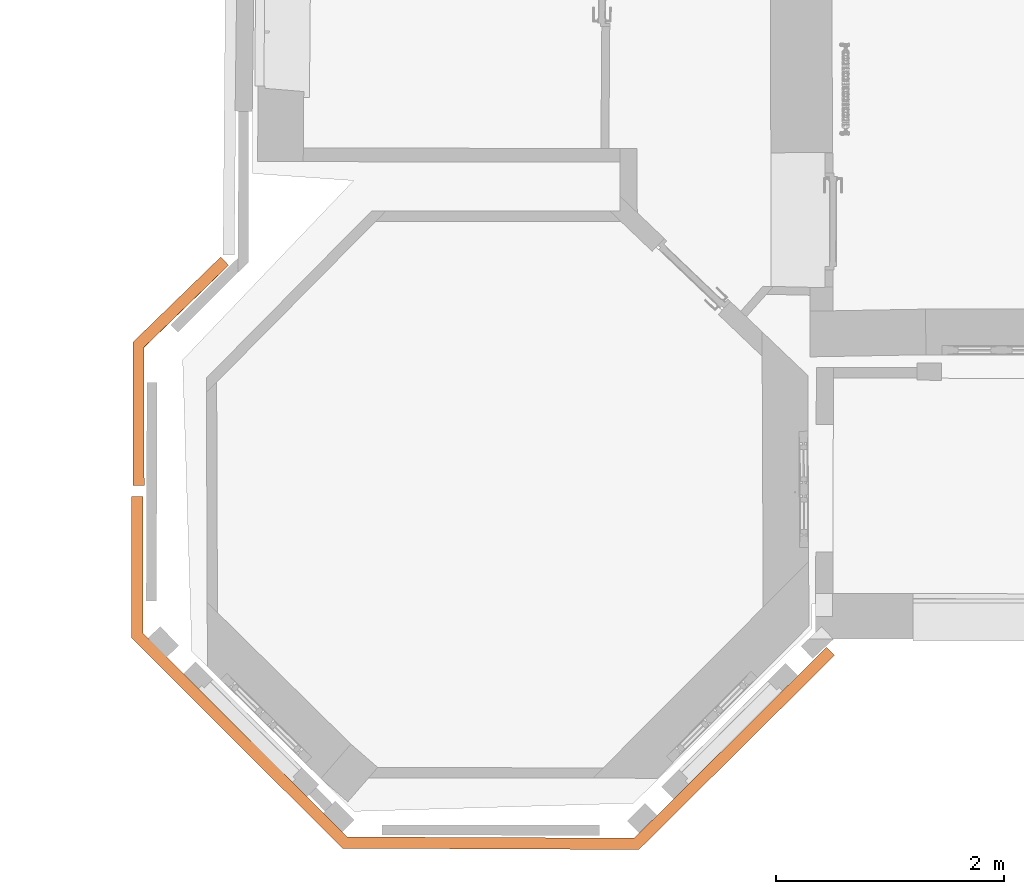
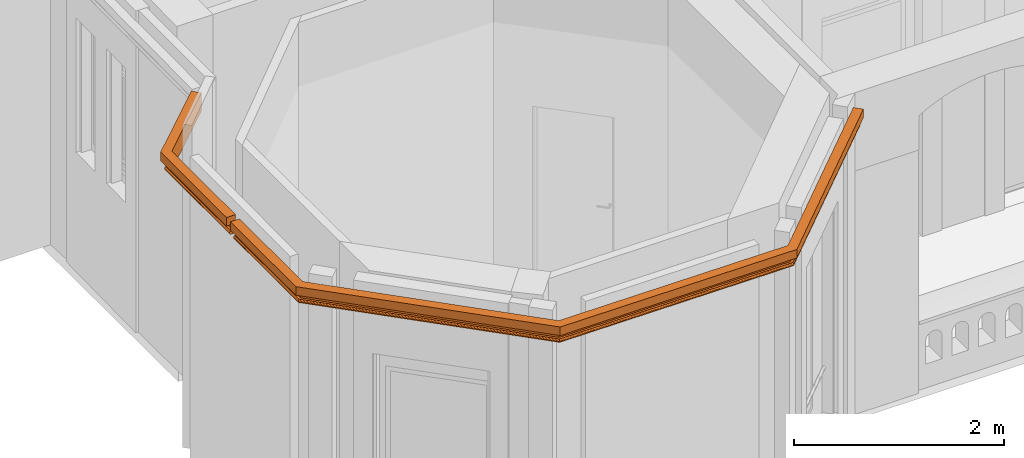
# One storey, part 62 of 66: 2 proxies.
"""IFC2X3 building model written with IfcOpenShell, lengths in centimetres."""

import ifcopenshell
import ifcopenshell.guid

model = None  # the IFC model being written
_history = None  # IfcOwnerHistory: only IFC2X3 demands one
_inside = {}  # id of a spatial element -> (the spatial element, [elements in it])
_under = {}  # id of a project, library or spatial element -> (it, [spatial elements below it])
_declared = {}  # id of a project -> (the project, [libraries it declares])
_typed = {}  # id of a type object -> (the type object, [elements of that type])
_made_of = {}  # id of a material, layer set ... -> (it, [elements and type objects made of it])


def new_model(schema):
    """Start an empty IFC model of exactly this schema.

    Asked for "IFC4X3", IfcOpenShell would pick the latest addendum, in which some entities
    have other attributes; the version numbers below select the first issue.
    IFC2X3 requires an IfcOwnerHistory on every rooted entity: one is made here for all.
    """
    global model, _history
    if schema == "IFC4X3":
        model = ifcopenshell.file(schema_version=(4, 3, 0, 0))
    else:
        model = ifcopenshell.file(schema=schema)
    _inside.clear()
    _under.clear()
    _declared.clear()
    _typed.clear()
    _made_of.clear()
    _history = None
    if model.schema == "IFC2X3":
        org = make("IfcOrganization", Name="unknown")
        user = make(
            "IfcPersonAndOrganization",
            ThePerson=make("IfcPerson", FamilyName="unknown"),
            TheOrganization=org,
        )
        app = make(
            "IfcApplication",
            ApplicationDeveloper=org,
            Version="unknown",
            ApplicationFullName="unknown",
            ApplicationIdentifier="unknown",
        )
        _history = make(
            "IfcOwnerHistory",
            OwningUser=user,
            OwningApplication=app,
            ChangeAction="ADDED",
            CreationDate=0,
        )
    return model


def make(cls, **values):
    """One entity of the class cls with the attributes given. An attribute that is None is left unset."""
    return model.create_entity(
        cls, **{name: value for name, value in values.items() if value is not None}
    )


def entity(cls, *values):
    """Any entity or typed value of the class cls, its attributes in the order of the schema. None: left unset."""
    e = model.create_entity(cls)
    for i, value in enumerate(values):
        if value is not None:
            e[i] = value
    return e


def rooted(cls, **values):
    """An entity with a GlobalId (a new one), such as an element, a storey or a relation."""
    return make(cls, GlobalId=ifcopenshell.guid.new(), OwnerHistory=_history, **values)


def si_unit(unit_type, name, prefix=None):
    """IfcSIUnit, for example si_unit("LENGTHUNIT", "METRE", prefix="MILLI")."""
    return make("IfcSIUnit", UnitType=unit_type, Prefix=prefix, Name=name)


def converted_unit(unit_type, name, factor, base, dimensions=None, offset=None):
    """IfcConversionBasedUnit, such as the inch: factor (a typed value) times the base unit."""
    return make(
        "IfcConversionBasedUnit"
        if offset is None
        else "IfcConversionBasedUnitWithOffset",
        ConversionOffset=offset,
        Dimensions=None
        if dimensions is None
        else entity("IfcDimensionalExponents", *dimensions),
        UnitType=unit_type,
        Name=name,
        ConversionFactor=make(
            "IfcMeasureWithUnit", ValueComponent=factor, UnitComponent=base
        ),
    )


def assignment(units):
    """IfcUnitAssignment: the units of a project."""
    return None if units is None else make("IfcUnitAssignment", Units=units)


def point(xyz):
    """IfcCartesianPoint."""
    return None if xyz is None else make("IfcCartesianPoint", Coordinates=xyz)


def direction(xyz):
    """IfcDirection."""
    return None if xyz is None else make("IfcDirection", DirectionRatios=xyz)


def frame(location, z_axis=None, x_axis=None):
    """IfcAxis2Placement3D, a coordinate frame: its origin and axes. An axis left out is left unset."""
    return make(
        "IfcAxis2Placement3D",
        Location=point(location),
        Axis=direction(z_axis),
        RefDirection=direction(x_axis),
    )


def origin():
    """The frame at (0, 0, 0) with its axes left unset."""
    return frame((0.0, 0.0, 0.0))


def origin_with_axes():
    """The frame at (0, 0, 0) with the z axis (0, 0, 1) and the x axis (1, 0, 0) written out."""
    return frame((0.0, 0.0, 0.0), z_axis=(0.0, 0.0, 1.0), x_axis=(1.0, 0.0, 0.0))


def place(relative_to, where):
    """IfcLocalPlacement: puts the frame where relative to a parent placement (None: the world)."""
    return make(
        "IfcLocalPlacement", PlacementRelTo=relative_to, RelativePlacement=where
    )


def context(
    kind, dimensions, precision=None, world=None, true_north=None, identifier=None
):
    """IfcGeometricRepresentationContext, for example the 3D "Model" context."""
    return make(
        "IfcGeometricRepresentationContext",
        ContextIdentifier=identifier,
        ContextType=kind,
        CoordinateSpaceDimension=dimensions,
        Precision=precision,
        WorldCoordinateSystem=world,
        TrueNorth=true_north,
    )


def subcontext(parent, identifier, kind, view, scale=None):
    """IfcGeometricRepresentationSubContext, for example "Body" below "Model"."""
    return make(
        "IfcGeometricRepresentationSubContext",
        ContextIdentifier=identifier,
        ContextType=kind,
        ParentContext=parent,
        TargetScale=scale,
        TargetView=view,
    )


def project(units=None, contexts=None):
    """IfcProject with its units and contexts."""
    return rooted(
        "IfcProject",
        Name="project",
        RepresentationContexts=contexts,
        UnitsInContext=assignment(units),
    )


def spatial(cls, under=None, at=None, **own):
    """A site, building, storey or space (cls), placed at a placement, below another one or the project."""
    s = rooted(cls, ObjectPlacement=at, **own)
    if under is not None:
        _under.setdefault(under.id(), (under, []))[1].append(s)
    return s


def faces_of(points, faces, orient=None, outer=None):
    """IfcFace entities. A face is a list of loops; a loop is a list of indices into points, from 0.

    orient and outer hold one flag for each loop. By default every Orientation is true, the
    first loop of a face is its IfcFaceOuterBound and the others are IfcFaceBound.
    """
    made = []
    for i, loops in enumerate(faces):
        bounds = []
        for j, loop in enumerate(loops):
            is_outer = j == 0 if outer is None else outer[i][j]
            bounds.append(
                make(
                    "IfcFaceOuterBound" if is_outer else "IfcFaceBound",
                    Bound=make("IfcPolyLoop", Polygon=[points[k] for k in loop]),
                    Orientation=True if orient is None else orient[i][j],
                )
            )
        made.append(make("IfcFace", Bounds=bounds))
    return made


def faceted_brep(points, faces, orient=None, outer=None, voids=None):
    """IfcFacetedBrep: a solid bounded by flat faces; with voids (closed shells), ...WithVoids."""
    shared = [point(p) for p in points]
    hull = make("IfcClosedShell", CfsFaces=faces_of(shared, faces, orient, outer))
    if voids is None:
        return make("IfcFacetedBrep", Outer=hull)
    return make(
        "IfcFacetedBrepWithVoids",
        Outer=hull,
        Voids=[
            make(cls, CfsFaces=faces_of(shared, fs, o, b)) for cls, fs, o, b in voids
        ],
    )


def shape(context_of_items, identifier, shape_type, items):
    """IfcShapeRepresentation: the items that make up one representation, for example the "Body"."""
    return make(
        "IfcShapeRepresentation",
        ContextOfItems=context_of_items,
        RepresentationIdentifier=identifier,
        RepresentationType=shape_type,
        Items=items,
    )


def material(Name=None, Category=None):
    """IfcMaterial."""
    return make("IfcMaterial", Name=Name, Category=Category)


def made_of(thing, what):
    """Note that an element or type object is made of a material, layer set ...; save() writes the relation."""
    if what is not None:
        _made_of.setdefault(what.id(), (what, []))[1].append(thing)
    return thing


def type_object(cls, material=None, **own):
    """A type object (cls), such as IfcWallType, which elements share."""
    return made_of(rooted(cls, **own), material)


def element(
    cls,
    number,
    at=None,
    inside=None,
    cuts=None,
    type_object=None,
    material=None,
    context=None,
    identifier="Body",
    shape_type=None,
    held_by="IfcProductDefinitionShape",
    body=None,
    shapes=None,
    **own,
):
    """One element of the class cls, such as IfcWall. Its Tag is "e" and its number.

    at: its placement. inside: the storey or other place that contains it. cuts: it is an
    opening in that element (IfcRelVoidsElement). A single representation is given by context,
    identifier, shape_type and body (its items); several are given by shapes. held_by: the class
    of the entity that holds the representations. save() writes the other relations.
    """
    e = rooted(cls, Tag="e%d" % number, ObjectPlacement=at, **own)
    if body is not None:
        shapes = [shape(context, identifier, shape_type, body)]
    if shapes is not None:
        e.Representation = make(held_by, Representations=shapes)
    if inside is not None:
        _inside.setdefault(inside.id(), (inside, []))[1].append(e)
    if cuts is not None:
        rooted(
            "IfcRelVoidsElement", RelatingBuildingElement=cuts, RelatedOpeningElement=e
        )
    if type_object is not None:
        _typed.setdefault(type_object.id(), (type_object, []))[1].append(e)
    return made_of(e, material)


def aggregate(whole, parts):
    """IfcRelAggregates: a whole, such as a stair, and the parts it consists of."""
    return rooted("IfcRelAggregates", RelatingObject=whole, RelatedObjects=parts)


def save(model, path):
    """Write the relations noted so far, then the file.

    IfcRelAggregates (storeys below a building ...), IfcRelContainedInSpatialStructure (elements
    in a storey), IfcRelDefinesByType, IfcRelAssociatesMaterial and IfcRelDeclares: one each for
    every whole, place, type object, material and project.
    """
    for whole, parts in _under.values():
        aggregate(whole, parts)
    for where, things in _inside.values():
        rooted(
            "IfcRelContainedInSpatialStructure",
            RelatedElements=things,
            RelatingStructure=where,
        )
    for kind, things in _typed.values():
        rooted("IfcRelDefinesByType", RelatedObjects=things, RelatingType=kind)
    for what, things in _made_of.values():
        rooted("IfcRelAssociatesMaterial", RelatedObjects=things, RelatingMaterial=what)
    for by, libraries in _declared.values():
        rooted("IfcRelDeclares", RelatingContext=by, RelatedDefinitions=libraries)
    model.write(path)


model = new_model("IFC2X3")

# Units and contexts
model_context = context("Model", 3, precision=0.0001, world=origin(), true_north=direction((0.225632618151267, 0.974212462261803, 0.0)))
body_context = subcontext(model_context, "Body", "Model", "MODEL_VIEW")
ifc_project = project(units=[si_unit("LENGTHUNIT", "METRE", prefix="CENTI"), si_unit("AREAUNIT", "SQUARE_METRE", prefix="CENTI"), si_unit("VOLUMEUNIT", "CUBIC_METRE", prefix="CENTI"), converted_unit("PLANEANGLEUNIT", "DEGREE", entity("IfcRatioMeasure", 0.0174532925), si_unit("PLANEANGLEUNIT", "RADIAN"), dimensions=[0, 0, 0, 0, 0, 0, 0])], contexts=[model_context])

# Site, building, storey
site_placement = place(None, origin_with_axes())
site = spatial("IfcSite", under=ifc_project, at=site_placement, Name="Default Site", CompositionType="ELEMENT")
building_placement = place(site_placement, origin_with_axes())
building = spatial("IfcBuilding", under=site, at=building_placement, Name="Default Building", CompositionType="ELEMENT")
storey_placement = place(building_placement, frame((0.0, 0.0, 477.795358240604), z_axis=(0.0, 0.0, 1.0), x_axis=(1.0, 0.0, 0.0)))
storey = spatial("IfcBuildingStorey", under=building, at=storey_placement, Name="Niveau 1", CompositionType="ELEMENT", Elevation=477.795358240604)

# Proxies
ifc_material = material(Name="Aluminium mat")
building_element_proxy_type = type_object("IfcBuildingElementProxyType", Name="Corniche niv1", PredefinedType="NOTDEFINED", material=ifc_material)
proxy_1_placement = place(storey_placement, origin_with_axes())
element("IfcBuildingElementProxy", 1, at=proxy_1_placement, inside=storey, type_object=building_element_proxy_type, material=ifc_material, Name="Extrusion (solide) 449945", context=body_context, shape_type="Brep", body=[
    faceted_brep([(-1263.10005187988, -715.201234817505, 364.399961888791), (-1273.08769226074, -710.979986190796, 364.399961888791), (-1273.04611206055, -836.597728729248, 364.399961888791), (-1263.05990219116, -836.594390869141, 364.399961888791), (-1273.08766772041, -711.054134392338, 354.40001910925), (-1273.04611739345, -836.597728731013, 354.40001910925), (-1273.04611739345, -836.597728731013, 364.399961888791), (-1273.08759689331, -711.054134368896, 354.40001910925), (-1266.10040664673, -714.00728225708, 354.40001910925), (-1266.05987548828, -836.595439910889, 354.40001910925), (-1273.04611206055, -836.597728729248, 354.40001910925), (-1266.10038871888, -714.061450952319, 347.100023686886), (-1266.05983446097, -836.59543989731, 347.100023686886), (-1266.05983446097, -836.59543989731, 354.40001910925), (-1266.10040664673, -714.061450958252, 347.100023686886), (-1268.56927871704, -713.017988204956, 347.100023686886), (-1268.52836608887, -836.596202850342, 347.100023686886), (-1266.05987548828, -836.595439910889, 347.100023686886), (-1268.92576346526, -712.868976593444, 346.875626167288), (-1268.8848404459, -836.596393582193, 346.875609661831), (-1268.5283697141, -836.596202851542, 347.100029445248), (-1268.92576217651, -712.868976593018, 346.875624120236), (-1269.23536037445, -712.740278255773, 346.58994177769), (-1269.1944112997, -836.596488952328, 346.589902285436), (-1268.88483270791, -836.596393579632, 346.875605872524), (-1269.23532485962, -712.740278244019, 346.589903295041), (-1269.48760966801, -712.636136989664, 346.252545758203), (-1269.44658989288, -836.596584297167, 346.25253695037), (-1269.19436141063, -836.596488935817, 346.589865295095), (-1269.48766708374, -712.636137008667, 346.252588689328), (-1269.67417518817, -712.560129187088, 345.874870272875), (-1269.63313219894, -836.596584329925, 345.874852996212), (-1269.44664432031, -836.596584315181, 346.252581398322), (-1269.6741104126, -712.560129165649, 345.874838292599), (-1269.78858587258, -712.514734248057, 345.469414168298), (-1269.74751658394, -836.596679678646, 345.469423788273), (-1269.63306210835, -836.596584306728, 345.874826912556), (-1269.788646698, -712.514734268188, 345.469431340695), (-1269.82722878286, -712.50152589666, 345.050010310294), (-1269.78615836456, -836.596679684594, 345.050004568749), (-1269.74757981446, -836.596679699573, 345.469434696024), (-1269.82717514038, -712.501525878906, 345.050005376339), (-1269.78859100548, -712.520980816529, 344.630584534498), (-1269.74752617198, -836.59667968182, 344.630580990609), (-1269.78610472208, -836.59667966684, 345.050011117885), (-1269.788646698, -712.520980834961, 344.630579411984), (-1269.67416941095, -712.572336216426, 344.225155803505), (-1269.63312484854, -836.596584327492, 344.225166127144), (-1269.74757932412, -836.596679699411, 344.630569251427), (-1269.6741104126, -712.572336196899, 344.22517246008), (-1269.4876008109, -712.65397069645, 343.847454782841), (-1269.44658279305, -836.596584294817, 343.847459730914), (-1269.63307067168, -836.596584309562, 344.225188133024), (-1269.48766708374, -712.653970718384, 343.847422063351), (-1269.23538121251, -712.763118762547, 343.510065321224), (-1269.1944226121, -836.596488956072, 343.510099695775), (-1269.44665109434, -836.596584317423, 343.847428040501), (-1269.23532485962, -712.763118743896, 343.510107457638), (-1268.92572601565, -712.896060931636, 343.224425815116), (-1268.88480067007, -836.596393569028, 343.22443959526), (-1269.19437926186, -836.596488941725, 343.510143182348), (-1268.92576217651, -712.896060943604, 343.224386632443), (-1268.56927711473, -713.048410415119, 342.999989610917), (-1268.52837096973, -836.596202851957, 342.999979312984), (-1268.88484170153, -836.596393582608, 343.224399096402), (-1268.56927871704, -713.048410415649, 342.999987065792), (-1263.09995651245, -715.360021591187, 342.999987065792), (-1263.05990219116, -836.594390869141, 342.999987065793), (-1268.52836608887, -836.596202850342, 342.999987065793), (-1263.10000906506, -715.201234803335, 364.399961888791), (-1263.05983238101, -836.594390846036, 364.399961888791), (-1263.05983238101, -836.594390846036, 342.999987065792), (-1189.15128707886, -643.398475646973, 363.102678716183), (-1196.10824560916, -636.234521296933, 363.049508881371), (-1273.08769184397, -710.979985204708, 364.400040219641), (-1263.1000514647, -715.201233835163, 364.400039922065), (-1196.10824584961, -636.234521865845, 363.049463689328), (-1196.16145879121, -636.360409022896, 353.050379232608), (-1273.08759296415, -711.054138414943, 354.400019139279), (-1273.08767689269, -710.980002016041, 364.399962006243), (-1196.16146087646, -636.36040687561, 353.050379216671), (-1191.29447935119, -641.372203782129, 353.08757607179), (-1266.10040687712, -714.007282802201, 354.399975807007), (-1273.08759712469, -711.054134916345, 354.399975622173), (-1191.29447937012, -641.372203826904, 353.087572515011), (-1191.3333033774, -641.464080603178, 345.78824459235), (-1266.1004149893, -714.061442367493, 347.100023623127), (-1266.10042030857, -714.007268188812, 354.400019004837), (-1191.33329391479, -641.46409034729, 345.788244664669), (-1193.05305521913, -639.693261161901, 345.775102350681), (-1268.56927903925, -713.017988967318, 347.099963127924), (-1266.10040696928, -714.061451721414, 347.099963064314), (-1193.05305480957, -639.693260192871, 345.775179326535), (-1193.30254412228, -639.440337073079, 345.548891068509), (-1268.92576537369, -712.868973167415, 346.875631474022), (-1268.56928227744, -713.017984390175, 347.100031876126), (-1193.30253601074, -639.44034576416, 345.548872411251), (-1193.51970275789, -639.221842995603, 345.261553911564), (-1269.23534830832, -712.740253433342, 346.589939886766), (-1268.92575676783, -712.868982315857, 346.875615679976), (-1193.51968765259, -639.221858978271, 345.261530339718), (-1193.69724023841, -639.045165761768, 344.922857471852), (-1269.48764393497, -712.636161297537, 346.252563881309), (-1269.23533864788, -712.740263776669, 346.589918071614), (-1193.6972618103, -639.045143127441, 344.922880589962), (-1193.82919115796, -638.916120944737, 344.544201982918), (-1269.67415535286, -712.56008231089, 345.874869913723), (-1269.48767108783, -712.636132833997, 346.25259150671), (-1193.82915496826, -638.916158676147, 344.544176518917), (-1193.91104471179, -638.839181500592, 344.138280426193), (-1269.78862090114, -712.514761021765, 345.469421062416), (-1269.67412394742, -712.560115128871, 345.874843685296), (-1193.91107559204, -638.839149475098, 344.138292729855), (-1193.94016607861, -638.816734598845, 343.718676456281), (-1269.82719143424, -712.501509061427, 345.050007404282), (-1269.7886434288, -712.514737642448, 345.469430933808), (-1193.94016265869, -638.816738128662, 343.718676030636), (-1193.91553246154, -638.849713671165, 343.299444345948), (-1269.78864860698, -712.520978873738, 344.630579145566), (-1269.82718642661, -712.501514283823, 345.050003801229), (-1193.91555786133, -638.849687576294, 343.299440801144), (-1193.83795576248, -638.936873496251, 342.894690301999), (-1269.67414931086, -712.572296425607, 344.225156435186), (-1269.78867249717, -712.520954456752, 344.630568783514), (-1193.83792877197, -638.936901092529, 342.894701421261), (-1193.71002574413, -639.075437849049, 342.518010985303), (-1269.48764382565, -712.653994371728, 343.847438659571), (-1269.67412069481, -712.57232573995, 344.225165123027), (-1193.71004104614, -639.075422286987, 342.518000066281), (-1193.53609502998, -639.260621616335, 342.182016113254), (-1269.2353536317, -712.763089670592, 343.510076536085), (-1269.48765850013, -712.653979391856, 343.847431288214), (-1193.53609085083, -639.260625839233, 342.182020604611), (-1193.32198900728, -639.486314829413, 341.898019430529), (-1268.92575290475, -712.896070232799, 343.224401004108), (-1269.23534416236, -712.763099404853, 343.510077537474), (-1193.3219909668, -639.486312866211, 341.898016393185), (-1193.07480672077, -639.744845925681, 341.675505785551), (-1268.56927255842, -713.048416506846, 343.000000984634), (-1268.92575474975, -712.896068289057, 343.224403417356), (-1193.07479858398, -639.744853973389, 341.675524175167), (-1189.26515563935, -643.667840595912, 341.70463997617), (-1263.09995642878, -715.360021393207, 343.000002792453), (-1268.56927863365, -713.048410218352, 343.000002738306), (-1189.26515579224, -643.667840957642, 341.704611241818), (-1189.15130038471, -643.398461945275, 363.102678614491), (-1263.10006252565, -715.20122385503, 364.399961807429), (-1263.09999332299, -715.359983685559, 342.999986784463), (-1273.0461120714, -836.597695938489, 364.399961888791), (-1273.0461120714, -836.597695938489, 354.40001910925), (-1266.05987550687, -836.595383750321, 354.40001910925), (-1266.05987550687, -836.595383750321, 347.100023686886), (-1268.52836608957, -836.596200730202, 347.100023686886), (-1268.88484957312, -836.596318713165, 346.875624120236), (-1269.19441225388, -836.596421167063, 346.589903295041), (-1269.4466591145, -836.596504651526, 346.252588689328), (-1269.63310242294, -836.596566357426, 345.874838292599), (-1269.74754335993, -836.59660423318, 345.469431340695), (-1269.78616716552, -836.596617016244, 345.050005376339), (-1269.74754335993, -836.59660423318, 344.630579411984), (-1269.63310242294, -836.596566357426, 344.22517246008), (-1269.4466591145, -836.596504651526, 343.847422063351), (-1269.19441225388, -836.596421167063, 343.510107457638), (-1268.88484957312, -836.596318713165, 343.224386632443), (-1268.52836608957, -836.596200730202, 342.999987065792), (-1193.07480308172, -639.744858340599, 341.675524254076), (-1193.32196582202, -639.486288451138, 341.898015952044), (-1193.53609405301, -639.260628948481, 342.18202066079), (-1193.71003615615, -639.075417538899, 342.51799998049), (-1193.83792629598, -638.93689868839, 342.894701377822), (-1193.91553104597, -638.849661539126, 343.299440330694), (-1193.94015301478, -638.816728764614, 343.718675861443), (-1193.91104758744, -638.8391222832, 344.138292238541), (-1193.82914003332, -638.916144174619, 344.544176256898), (-1193.69725091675, -639.045132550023, 344.922880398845), (-1193.51970009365, -639.221871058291, 345.261530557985), (-1193.30253004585, -639.440339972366, 345.548872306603), (-1193.0530159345, -639.693222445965, 345.775178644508), (-1191.33330203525, -641.464098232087, 345.788244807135), (-1191.29447446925, -641.372199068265, 353.08757242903), (-1196.16146871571, -636.360414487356, 353.050379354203), (-1196.10826519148, -636.234540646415, 363.049464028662), (-1189.15129126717, -643.39847971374, 363.102678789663)], [[[0, 1, 2, 3]], [[1, 4, 5, 6]], [[7, 8, 9, 10]], [[8, 11, 12, 13]], [[14, 15, 16, 17]], [[15, 18, 19, 20]], [[21, 22, 23, 24]], [[25, 26, 27, 28]], [[29, 30, 31, 32]], [[33, 34, 35, 36]], [[37, 38, 39, 40]], [[41, 42, 43, 44]], [[45, 46, 47, 48]], [[49, 50, 51, 52]], [[53, 54, 55, 56]], [[57, 58, 59, 60]], [[61, 62, 63, 64]], [[65, 66, 67, 68]], [[66, 69, 70, 71]], [[72, 73, 74, 75]], [[76, 77, 78, 79]], [[80, 81, 82, 83]], [[84, 85, 86, 87]], [[88, 89, 90, 91]], [[92, 93, 94, 95]], [[96, 97, 98, 99]], [[100, 101, 102, 103]], [[104, 105, 106, 107]], [[108, 109, 110, 111]], [[112, 113, 114, 115]], [[116, 117, 118, 119]], [[120, 121, 122, 123]], [[124, 125, 126, 127]], [[128, 129, 130, 131]], [[132, 133, 134, 135]], [[136, 137, 138, 139]], [[140, 141, 142, 143]], [[144, 145, 146, 147]], [[3, 148, 149, 150, 151, 152, 153, 154, 155, 156, 157, 158, 159, 160, 161, 162, 163, 164, 67]], [[144, 165, 166, 167, 168, 169, 170, 171, 172, 173, 174, 175, 176, 177, 178, 179, 180, 181, 182]]]),
])
proxy_2_placement = place(storey_placement, origin_with_axes())
element("IfcBuildingElementProxy", 2, at=proxy_2_placement, inside=storey, type_object=building_element_proxy_type, material=ifc_material, Name="Extrusion (solide) 449944", context=body_context, shape_type="Brep", body=[
    faceted_brep([(-833.801555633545, -1145.31154632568, 365.399984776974), (-829.703903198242, -1155.31482696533, 365.399984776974), (-658.286476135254, -985.157108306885, 365.399984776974), (-665.321683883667, -978.06978225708, 365.399984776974), (-829.703903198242, -1155.31482696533, 355.400041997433), (-658.286480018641, -985.157104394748, 355.400041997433), (-658.286480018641, -985.157104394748, 365.399984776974), (-832.570552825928, -1148.31666946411, 355.400041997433), (-663.208246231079, -980.198955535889, 355.400041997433), (-658.286476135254, -985.157108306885, 355.400041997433), (-832.570552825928, -1148.31666946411, 348.10004657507), (-663.208243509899, -980.198958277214, 348.10004657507), (-663.208243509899, -980.198958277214, 355.400041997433), (-831.557655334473, -1150.78935623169, 348.10004657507), (-661.469173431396, -981.950855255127, 348.10004657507), (-663.208246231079, -980.198955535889, 348.10004657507), (-831.411337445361, -1151.14643632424, 347.875606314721), (-661.218054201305, -982.203881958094, 347.875589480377), (-661.469181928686, -981.950846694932, 348.100027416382), (-831.411361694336, -1151.14641189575, 347.875551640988), (-831.284365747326, -1151.45651306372, 347.589874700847), (-660.999987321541, -982.423474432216, 347.589892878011), (-661.218081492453, -982.203854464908, 347.875535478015), (-831.284332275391, -1151.45654678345, 347.589926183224), (-831.180813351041, -1151.70922070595, 347.252564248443), (-660.822242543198, -982.602554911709, 347.25257309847), (-660.999948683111, -982.42351335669, 347.589944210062), (-831.180858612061, -1151.70917510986, 347.25251621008), (-831.104386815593, -1151.89598692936, 346.874852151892), (-660.690942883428, -982.734855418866, 346.874850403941), (-660.82228825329, -982.602508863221, 347.252521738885), (-831.104373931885, -1151.89599990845, 346.874861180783), (-831.05737228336, -1152.01061695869, 346.469448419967), (-660.610304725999, -982.816113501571, 346.469450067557), (-660.690927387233, -982.73487102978, 346.874861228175), (-831.057357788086, -1152.01063156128, 346.469454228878), (-831.041517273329, -1152.04926496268, 346.050029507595), (-660.583112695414, -982.84349635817, 346.050028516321), (-660.610295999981, -982.816122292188, 346.469454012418), (-831.041526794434, -1152.04925537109, 346.050028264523), (-831.057373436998, -1152.01061579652, 345.630508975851), (-660.610311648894, -982.816106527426, 345.630509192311), (-660.583122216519, -982.84348676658, 346.050029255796), (-831.057357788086, -1152.01063156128, 345.630506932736), (-831.104341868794, -1151.8960322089, 345.225182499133), (-660.690895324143, -982.734903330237, 345.225182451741), (-660.610290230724, -982.816128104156, 345.630505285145), (-831.104373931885, -1151.89599990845, 345.225195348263), (-831.180872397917, -1151.70916122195, 344.847454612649), (-660.822302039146, -982.602494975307, 344.847449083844), (-660.690929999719, -982.734868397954, 345.225197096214), (-831.180858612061, -1151.70917510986, 344.847444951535), (-831.284345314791, -1151.45653364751, 344.510144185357), (-660.999961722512, -982.423500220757, 344.51012615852), (-660.822287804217, -982.602509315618, 344.847436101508), (-831.284332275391, -1151.45654678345, 344.510130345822), (-831.411361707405, -1151.14641188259, 344.224409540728), (-661.218081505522, -982.203854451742, 344.2244257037), (-660.999953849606, -982.423508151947, 344.510112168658), (-831.411361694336, -1151.14641189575, 344.224409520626), (-831.557649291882, -1150.78936231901, 343.999996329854), (-661.469175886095, -981.950852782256, 344.000015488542), (-661.21807845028, -982.203857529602, 344.224426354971), (-831.557655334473, -1150.78935623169, 344.000009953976), (-833.801555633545, -1145.31154632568, 344.000009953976), (-665.321683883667, -978.06978225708, 344.000009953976), (-661.469173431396, -981.950855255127, 344.000009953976), (-665.321681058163, -978.069785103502, 365.399984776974), (-665.321681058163, -978.069785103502, 344.000009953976), (-1085.26344299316, -1144.26860809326, 365.399984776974), (-1089.40849304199, -1154.23765182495, 365.399984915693), (-829.703903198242, -1155.31482696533, 365.399980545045), (-833.801555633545, -1145.31154632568, 365.399980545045), (-1089.40849304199, -1154.23765182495, 365.399984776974), (-1089.40849304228, -1154.2376518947, 355.400041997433), (-829.703903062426, -1155.31479421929, 355.400041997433), (-829.703903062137, -1155.31479414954, 365.399984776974), (-1089.40849304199, -1154.23765182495, 355.400041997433), (-1086.5086555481, -1147.26343154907, 355.400041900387), (-832.570552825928, -1148.31666946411, 355.400037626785), (-829.703903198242, -1155.31482696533, 355.400037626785), (-1086.5086555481, -1147.26343154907, 355.400041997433), (-1086.50865554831, -1147.26343159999, 348.10004657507), (-832.570552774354, -1148.31665702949, 348.10004657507), (-832.570552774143, -1148.31665697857, 355.400041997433), (-1086.5086555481, -1147.26343154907, 348.10004657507), (-1087.53328323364, -1149.72772598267, 348.10004660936), (-831.557655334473, -1150.78935623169, 348.100042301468), (-832.570552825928, -1148.31666946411, 348.100042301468), (-1087.53328323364, -1149.72772598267, 348.10004657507), (-1087.68129367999, -1150.08358826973, 347.875625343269), (-831.411361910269, -1151.14646395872, 347.875634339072), (-831.557655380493, -1150.78936732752, 348.10006419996), (-1087.68129348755, -1150.08354187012, 347.875551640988), (-1087.80975336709, -1150.39252008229, 347.589912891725), (-831.284332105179, -1151.45650574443, 347.589881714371), (-831.411361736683, -1151.14642210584, 347.875562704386), (-1087.80975341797, -1150.39253234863, 347.589926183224), (-1087.91446683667, -1150.64439261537, 347.252512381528), (-831.180858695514, -1151.70919523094, 347.252531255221), (-831.284332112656, -1151.45650754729, 347.589896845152), (-1087.91446685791, -1150.6443977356, 347.25251621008), (-1087.99190512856, -1150.8305347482, 346.874851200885), (-831.104373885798, -1151.89598879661, 346.874855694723), (-831.180858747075, -1151.70920766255, 347.252532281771), (-1087.9919052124, -1150.83055496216, 346.874861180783), (-1088.03939822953, -1150.94481386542, 346.469456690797), (-831.057357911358, -1152.01066128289, 346.469462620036), (-831.104373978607, -1151.89601117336, 346.874864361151), (-1088.03939819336, -1150.94480514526, 346.469454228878), (-1088.05541985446, -1150.98331733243, 346.05002676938), (-831.041526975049, -1152.04929891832, 346.050032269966), (-831.057357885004, -1152.01065492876, 346.469456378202), (-1088.05541992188, -1150.98333358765, 346.050028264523), (-1088.03939822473, -1150.94481270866, 345.63050623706), (-831.057357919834, -1152.0106633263, 345.630504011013), (-831.041527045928, -1152.04931600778, 346.050022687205), (-1088.03939819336, -1150.94480514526, 345.630506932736), (-1087.99190527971, -1150.83057119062, 345.225190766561), (-831.104374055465, -1151.89602970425, 345.225186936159), (-831.057357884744, -1152.01065486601, 345.630500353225), (-1087.9919052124, -1150.83055496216, 345.225195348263), (-1087.91446678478, -1150.64438010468, 344.84745365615), (-831.180858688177, -1151.70919346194, 344.847435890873), (-831.104373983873, -1151.89601244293, 345.225189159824), (-1087.91446685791, -1150.6443977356, 344.847444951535), (-1087.80975362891, -1150.3925832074, 344.510092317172), (-831.284332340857, -1151.45656256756, 344.510118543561), (-831.180858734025, -1151.70920451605, 344.847422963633), (-1087.80975341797, -1150.39253234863, 344.510130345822), (-1087.6812933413, -1150.08350660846, 344.224447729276), (-831.411361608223, -1151.14639113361, 344.224432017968), (-831.284332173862, -1151.45652230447, 344.510156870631), (-1087.68129348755, -1150.08354187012, 344.224409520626), (-1087.53328321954, -1149.72772258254, 344.000015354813), (-831.55765538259, -1150.78936783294, 343.999991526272), (-831.411361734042, -1151.14642146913, 344.224394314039), (-1087.53328323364, -1149.72772598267, 344.000009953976), (-1085.26344299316, -1144.26860809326, 344.000009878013), (-833.801555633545, -1145.31154632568, 344.000005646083), (-831.557655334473, -1150.78935623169, 344.000005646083), (-1085.26344299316, -1144.26860809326, 344.000009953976), (-1085.26344299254, -1144.26860794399, 365.399984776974), (-833.801555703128, -1145.31156310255, 365.399984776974), (-833.801555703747, -1145.31156325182, 344.000009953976), (-1264.03589248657, -966.014671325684, 365.399984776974), (-1274.02210235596, -970.15962600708, 365.399984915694), (-1085.26344299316, -1144.26860809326, 365.399984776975), (-1274.02210235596, -970.15962600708, 365.399984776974), (-1274.02210245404, -970.159626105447, 355.400041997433), (-1089.40850548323, -1154.23766430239, 355.400041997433), (-1089.40850538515, -1154.23766420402, 365.399984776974), (-1274.02210235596, -970.15962600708, 355.400041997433), (-1267.03596115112, -967.259883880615, 355.400041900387), (-1086.5086555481, -1147.26343154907, 355.400041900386), (-1267.03596115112, -967.259883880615, 355.400041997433), (-1267.03596122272, -967.259883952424, 348.10004657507), (-1086.50868230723, -1147.26345838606, 348.10004657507), (-1086.50868223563, -1147.26345831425, 355.400041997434), (-1267.03596115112, -967.259883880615, 348.10004657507), (-1269.50435638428, -968.284511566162, 348.10004660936), (-1086.5086555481, -1147.26343154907, 348.100046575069), (-1269.50435638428, -968.284511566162, 348.10004657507), (-1269.86086815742, -968.432454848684, 347.875615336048), (-1087.68131215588, -1150.08356059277, 347.875593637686), (-1087.53327821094, -1149.72772094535, 348.10003527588), (-1269.86083984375, -968.432426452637, 347.875551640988), (-1270.1703867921, -968.560870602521, 347.589902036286), (-1087.80973423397, -1150.39251310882, 347.589896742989), (-1087.68127926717, -1150.08352760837, 347.875529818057), (-1270.17040252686, -968.560886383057, 347.589926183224), (-1270.42266401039, -968.665614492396, 347.252531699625), (-1087.91446095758, -1150.6443918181, 347.252509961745), (-1087.80974780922, -1150.39252672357, 347.589920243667), (-1270.42264938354, -968.665599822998, 347.25251621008), (-1270.60913355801, -968.74298349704, 346.874823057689), (-1087.99184878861, -1150.83049837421, 346.874821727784), (-1087.91443883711, -1150.64436963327, 347.252496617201), (-1270.60918807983, -968.74303817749, 346.874861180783), (-1270.7236420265, -968.790544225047, 346.469459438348), (-1088.0394124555, -1150.9448194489, 346.469459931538), (-1087.99190805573, -1150.83055781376, 346.874862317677), (-1270.7236289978, -968.790531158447, 346.469454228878), (-1270.76217741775, -968.806572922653, 346.050030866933), (-1088.05540609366, -1150.9833197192, 346.050026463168), (-1088.03939675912, -1150.94480370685, 346.469454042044), (-1270.76215744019, -968.806552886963, 346.050028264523), (-1270.72360288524, -968.790504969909, 345.63051033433), (-1088.03937064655, -1150.94477751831, 345.630510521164), (-1088.05538611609, -1150.98329968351, 346.050032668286), (-1270.7236289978, -968.790531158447, 345.630506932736), (-1270.60919266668, -968.743042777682, 345.225193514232), (-1087.99191264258, -1150.83056241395, 345.225192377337), (-1088.03939942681, -1150.9448063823, 345.630506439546), (-1270.60918807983, -968.74303817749, 345.225195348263), (-1270.42267718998, -968.665627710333, 344.847425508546), (-1087.91447353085, -1150.64440442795, 344.847440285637), (-1087.99191020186, -1150.83055996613, 345.225191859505), (-1270.42264938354, -968.665599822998, 344.847444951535), (-1270.17042019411, -968.560904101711, 344.510111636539), (-1087.80976547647, -1150.39254444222, 344.510117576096), (-1087.91444633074, -1150.6443771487, 344.847466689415), (-1270.17040252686, -968.560886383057, 344.510130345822), (-1269.86082202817, -968.432408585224, 344.224436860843), (-1087.68125885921, -1150.08350714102, 344.224462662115), (-1087.80974737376, -1150.39252628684, 344.510139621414), (-1269.86083984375, -968.432426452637, 344.224409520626), (-1269.50435843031, -968.284513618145, 344.000005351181), (-1087.53328025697, -1149.72772299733, 344.00001665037), (-1087.68128384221, -1150.08353219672, 344.224431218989), (-1269.50435638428, -968.284511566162, 344.000009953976), (-1264.03589248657, -966.014671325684, 344.000009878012), (-1264.03589248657, -966.014671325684, 344.000009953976), (-1264.03589227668, -966.014671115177, 365.399984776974), (-1085.26339226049, -1144.26855721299, 365.399984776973), (-1085.26339247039, -1144.26855742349, 344.000009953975), (-1264.03589248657, -845.870018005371, 365.399984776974), (-1274.02210235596, -845.870018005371, 365.399984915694), (-1274.02210235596, -845.870018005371, 365.399984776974), (-1274.02210249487, -845.870018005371, 355.400041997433), (-1274.02210249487, -970.15962600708, 355.400041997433), (-1274.02210235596, -845.870018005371, 355.400041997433), (-1267.03596115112, -845.870018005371, 355.400041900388), (-1267.03596115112, -967.259883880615, 355.400041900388), (-1267.03596115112, -845.870018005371, 355.400041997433), (-1267.03596125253, -845.870018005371, 348.10004657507), (-1267.03596125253, -967.259883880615, 348.10004657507), (-1267.03596115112, -845.870018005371, 348.10004657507), (-1269.50435638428, -845.870018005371, 348.100046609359), (-1269.50435638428, -968.284511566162, 348.100046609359), (-1269.50435638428, -845.870018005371, 348.10004657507), (-1269.8608701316, -845.870018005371, 347.875599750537), (-1269.8608701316, -968.432426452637, 347.875599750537), (-1269.86083984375, -845.870018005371, 347.875551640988), (-1270.17037091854, -845.870018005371, 347.589891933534), (-1270.17037091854, -968.560886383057, 347.589891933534), (-1270.17040252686, -845.870018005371, 347.589926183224), (-1270.42267676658, -845.870018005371, 347.252536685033), (-1270.42267676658, -968.665599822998, 347.252536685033), (-1270.42264938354, -845.870018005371, 347.25251621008), (-1270.60911809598, -845.870018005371, 346.874826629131), (-1270.60911809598, -968.74303817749, 346.874826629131), (-1270.60918807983, -845.870018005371, 346.874861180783), (-1270.72364258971, -845.870018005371, 346.469458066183), (-1270.72364258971, -968.790531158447, 346.469458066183), (-1270.7236289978, -845.870018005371, 346.469454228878), (-1270.76220675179, -845.870018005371, 346.05003280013), (-1270.76220675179, -968.806552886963, 346.05003280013), (-1270.76215744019, -845.870018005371, 346.050028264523), (-1270.72357099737, -845.870018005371, 345.630512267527), (-1270.72357099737, -968.790531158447, 345.630512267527), (-1270.7236289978, -845.870018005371, 345.630506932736), (-1270.60919943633, -845.870018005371, 345.225192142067), (-1270.60919943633, -968.74303817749, 345.225192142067), (-1270.60918807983, -845.870018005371, 345.225195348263), (-1270.42268152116, -845.870018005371, 344.847429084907), (-1270.42268152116, -968.665599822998, 344.847429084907), (-1270.42264938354, -845.870018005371, 344.847444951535), (-1270.17042088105, -845.870018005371, 344.510116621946), (-1270.17042088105, -968.560886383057, 344.510116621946), (-1270.17040252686, -845.870018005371, 344.510130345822), (-1269.86082393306, -845.870018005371, 344.224426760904), (-1269.86082393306, -968.432426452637, 344.224426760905), (-1269.86083984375, -845.870018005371, 344.224409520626), (-1269.50436909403, -845.870018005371, 343.999989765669), (-1269.50436909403, -968.284511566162, 343.999989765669), (-1269.86083984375, -968.432426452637, 344.224409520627), (-1269.50435638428, -845.870018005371, 344.000009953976), (-1264.03589248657, -845.870018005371, 344.000009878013), (-1264.03589248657, -966.014671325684, 344.000009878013), (-1264.03589248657, -845.870018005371, 344.000009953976), (-1264.0358921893, -845.870018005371, 365.399984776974), (-1264.0358921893, -966.014671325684, 365.399984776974), (-658.286458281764, -985.157090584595, 365.399984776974), (-658.286458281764, -985.157090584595, 355.400041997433), (-663.208201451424, -980.198911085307, 355.400041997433), (-663.208201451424, -980.198911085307, 348.10004657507), (-661.46915248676, -981.950834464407, 348.10004657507), (-661.218025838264, -982.20382023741, 347.875551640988), (-660.999964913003, -982.423495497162, 347.589926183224), (-660.822285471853, -982.602490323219, 347.25251621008), (-660.690902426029, -982.734846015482, 346.874861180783), (-660.610257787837, -982.816087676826, 346.469454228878), (-660.583083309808, -982.843463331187, 346.050028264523), (-660.610257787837, -982.816087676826, 345.630506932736), (-660.690902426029, -982.734846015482, 345.225195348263), (-660.822285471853, -982.602490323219, 344.847444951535), (-660.999964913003, -982.423495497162, 344.510130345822), (-661.218025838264, -982.20382023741, 344.224409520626), (-661.46915248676, -981.950834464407, 344.000009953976)], [[[0, 1, 2, 3]], [[1, 4, 5, 6]], [[4, 7, 8, 9]], [[7, 10, 11, 12]], [[10, 13, 14, 15]], [[13, 16, 17, 18]], [[19, 20, 21, 22]], [[23, 24, 25, 26]], [[27, 28, 29, 30]], [[31, 32, 33, 34]], [[35, 36, 37, 38]], [[39, 40, 41, 42]], [[43, 44, 45, 46]], [[47, 48, 49, 50]], [[51, 52, 53, 54]], [[55, 56, 57, 58]], [[59, 60, 61, 62]], [[63, 64, 65, 66]], [[64, 0, 67, 68]], [[69, 70, 71, 72]], [[73, 74, 75, 76]], [[77, 78, 79, 80]], [[81, 82, 83, 84]], [[85, 86, 87, 88]], [[89, 90, 91, 92]], [[93, 94, 95, 96]], [[97, 98, 99, 100]], [[101, 102, 103, 104]], [[105, 106, 107, 108]], [[109, 110, 111, 112]], [[113, 114, 115, 116]], [[117, 118, 119, 120]], [[121, 122, 123, 124]], [[125, 126, 127, 128]], [[129, 130, 131, 132]], [[133, 134, 135, 136]], [[137, 138, 139, 140]], [[141, 142, 143, 144]], [[145, 146, 70, 147]], [[148, 149, 150, 151]], [[152, 153, 154, 77]], [[155, 156, 157, 158]], [[159, 160, 86, 161]], [[162, 163, 164, 165]], [[166, 167, 168, 169]], [[170, 171, 172, 173]], [[174, 175, 176, 177]], [[178, 179, 180, 181]], [[182, 183, 184, 185]], [[186, 187, 188, 189]], [[190, 191, 192, 193]], [[194, 195, 196, 197]], [[198, 199, 200, 201]], [[202, 203, 204, 205]], [[206, 207, 208, 209]], [[210, 211, 138, 137]], [[212, 213, 214, 215]], [[216, 217, 146, 145]], [[218, 219, 220, 148]], [[221, 222, 223, 152]], [[224, 225, 226, 155]], [[227, 228, 229, 159]], [[230, 231, 232, 162]], [[233, 234, 235, 166]], [[236, 237, 238, 170]], [[239, 240, 241, 174]], [[242, 243, 244, 178]], [[245, 246, 247, 182]], [[248, 249, 250, 186]], [[251, 252, 253, 190]], [[254, 255, 256, 194]], [[257, 258, 259, 198]], [[260, 261, 262, 202]], [[263, 264, 265, 266]], [[267, 268, 269, 210]], [[270, 271, 272, 212]], [[3, 273, 274, 275, 276, 277, 278, 279, 280, 281, 282, 283, 284, 285, 286, 287, 288, 289, 65]], [[270, 267, 263, 260, 257, 254, 251, 248, 245, 242, 239, 236, 233, 230, 227, 224, 221, 218, 216]]]),
])

save(model, "model.ifc")
